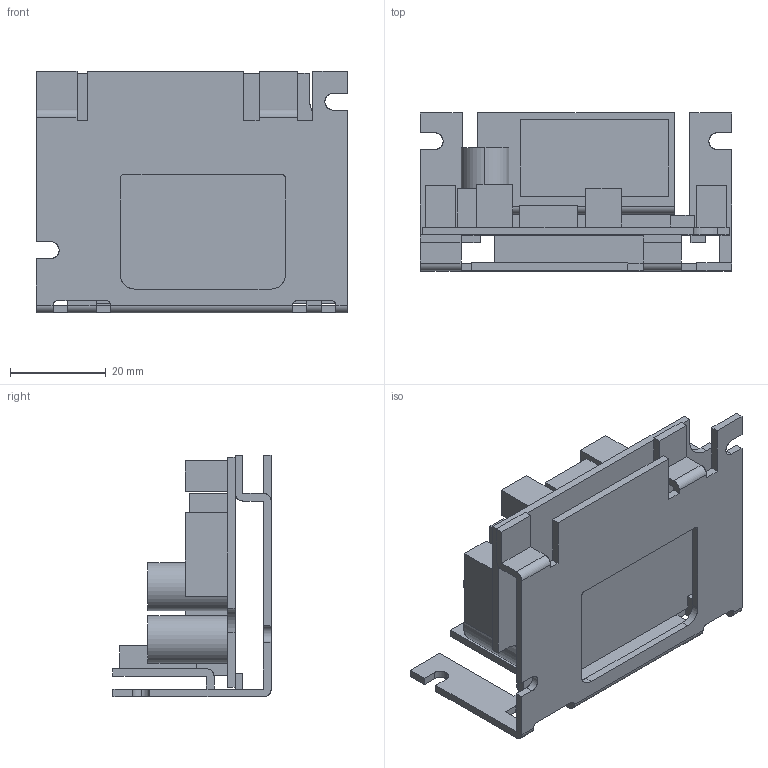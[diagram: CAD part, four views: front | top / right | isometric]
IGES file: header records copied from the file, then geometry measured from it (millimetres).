
Start section: SolidWorks IGES file using analytic representation for surfaces
Global section: file name: C:\Users\7666\Documents\Desktop\PDSB-UK.IGS; native system: SolidWorks 2014; preprocessor: SolidWorks 2014; author: 7666; date: 180223.160916; units: millimetre
Bounding box: 65 x 33 x 50.5 mm (x, y, z)
Surface area: 19006.9 mm2 (no closed solid volume)
Topology: 0 solids, 0 shells, 163 faces, 1460 edges, 1460 vertices
Faces by surface type: bspline 133, revolution 30
